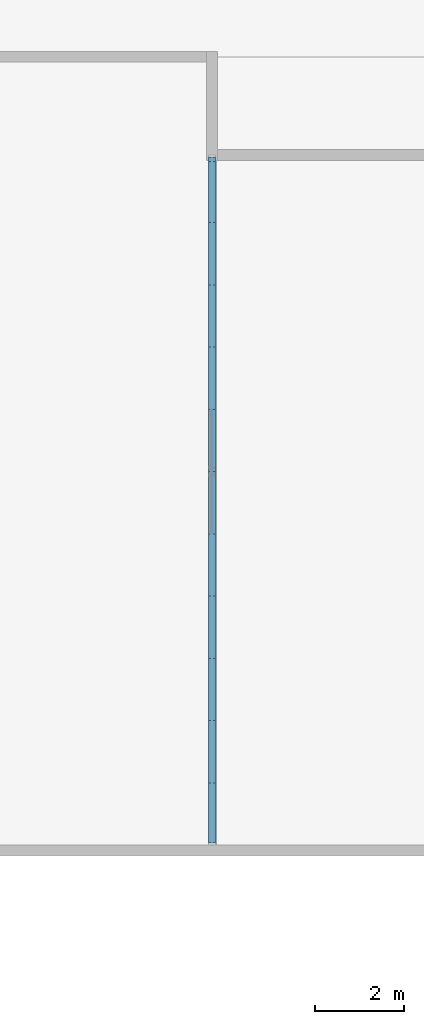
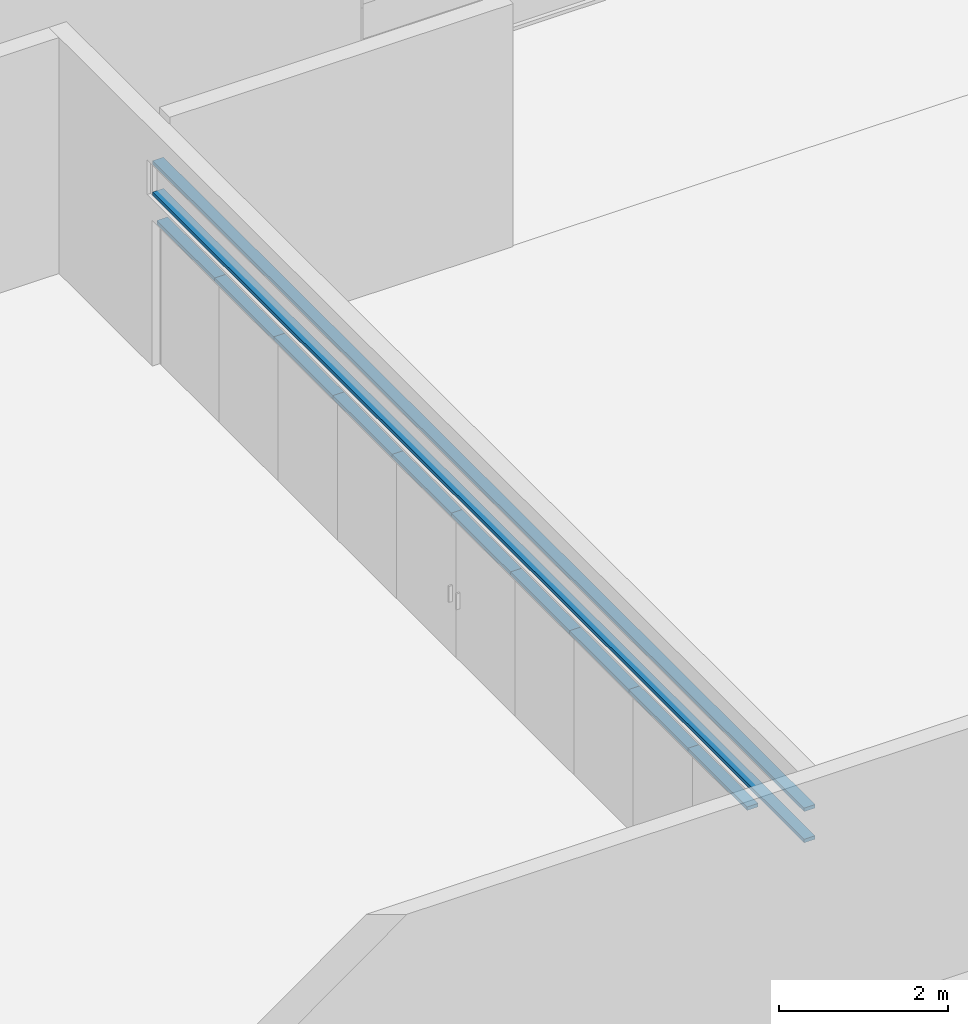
# One storey, part 1 of 24: 12 members, 2 elements without a shape of their own.
"""IFC2X3 building model written with IfcOpenShell, lengths in millimetres."""

from ifc_helpers import new_model, entity, si_unit, converted_unit, derived_unit, direction, frame, origin, origin_2d_with_axis, place, context, subcontext, project, spatial, rectangle, extrude, source, transform, mapped, material, type_object, type_shapes, element, aggregate, save


model = new_model("IFC2X3")

# Units and contexts
model_context = context("Model", 3, precision=0.01, world=origin(), true_north=direction((6.12303176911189e-17, 1.0)))
body_context = subcontext(model_context, "Body", "Model", "MODEL_VIEW")
ifc_project = project(units=[si_unit("LENGTHUNIT", "METRE", prefix="MILLI"), si_unit("AREAUNIT", "SQUARE_METRE"), si_unit("VOLUMEUNIT", "CUBIC_METRE"), converted_unit("PLANEANGLEUNIT", "DEGREE", entity("IfcRatioMeasure", 0.0174532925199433), si_unit("PLANEANGLEUNIT", "RADIAN"), dimensions=[0, 0, 0, 0, 0, 0, 0]), si_unit("MASSUNIT", "GRAM", prefix="KILO"), derived_unit("MASSDENSITYUNIT", [(si_unit("MASSUNIT", "GRAM", prefix="KILO"), 1), (si_unit("LENGTHUNIT", "METRE"), -3)]), si_unit("TIMEUNIT", "SECOND"), si_unit("FREQUENCYUNIT", "HERTZ"), si_unit("THERMODYNAMICTEMPERATUREUNIT", "DEGREE_CELSIUS"), derived_unit("THERMALTRANSMITTANCEUNIT", [(si_unit("MASSUNIT", "GRAM", prefix="KILO"), 1), (si_unit("THERMODYNAMICTEMPERATUREUNIT", "KELVIN"), -1), (si_unit("TIMEUNIT", "SECOND"), -3)]), derived_unit("VOLUMETRICFLOWRATEUNIT", [(si_unit("LENGTHUNIT", "METRE"), 3), (si_unit("TIMEUNIT", "SECOND"), -1)]), si_unit("ELECTRICCURRENTUNIT", "AMPERE"), si_unit("ELECTRICVOLTAGEUNIT", "VOLT"), si_unit("POWERUNIT", "WATT"), si_unit("FORCEUNIT", "NEWTON", prefix="KILO"), si_unit("ILLUMINANCEUNIT", "LUX"), si_unit("LUMINOUSFLUXUNIT", "LUMEN"), si_unit("LUMINOUSINTENSITYUNIT", "CANDELA"), derived_unit("USERDEFINED", [(si_unit("MASSUNIT", "GRAM", prefix="KILO"), -1), (si_unit("LENGTHUNIT", "METRE"), -2), (si_unit("TIMEUNIT", "SECOND"), 3), (si_unit("LUMINOUSFLUXUNIT", "LUMEN"), 1)]), derived_unit("LINEARVELOCITYUNIT", [(si_unit("LENGTHUNIT", "METRE"), 1), (si_unit("TIMEUNIT", "SECOND"), -1)]), si_unit("PRESSUREUNIT", "PASCAL"), derived_unit("USERDEFINED", [(si_unit("LENGTHUNIT", "METRE"), -2), (si_unit("MASSUNIT", "GRAM", prefix="KILO"), 1), (si_unit("TIMEUNIT", "SECOND"), -2)])], contexts=[model_context])

# Site, building, storey
site_placement = place(None, origin())
site = spatial("IfcSite", under=ifc_project, at=site_placement, Name="表面", CompositionType="ELEMENT")
building_placement = place(site_placement, origin())
building = spatial("IfcBuilding", under=site, at=building_placement, CompositionType="ELEMENT")
storey_placement = place(building_placement, frame((0.0, 0.0, -3500.0)))
storey = spatial("IfcBuildingStorey", under=building, at=storey_placement, Name="-1F", CompositionType="ELEMENT", Elevation=-3500.0)

# Curtain wall, members
curtain_wall_type_1 = type_object("IfcCurtainWallType", Name="幕墙:店面", PredefinedType="NOTDEFINED")
curtain_wall_1_placement = place(storey_placement, frame((0.0, 0.0, 3500.0)))
curtain_wall_1 = element("IfcCurtainWall", 1, at=curtain_wall_1_placement, inside=storey, type_object=curtain_wall_type_1, Name="幕墙:店面", ObjectType="幕墙:店面")
ifc_material = material(Name="金属 - 铝")
member_type_1 = type_object("IfcMemberType", Name="50 x 150mm", PredefinedType="MEMBER")
shared_shape_1 = source(origin(), body_context, "Body", "SweptSolid", [
    extrude(rectangle(XDim=150.0, YDim=50.0, at=origin_2d_with_axis()), frame((-25.0, 0.0, -1366.36363636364), z_axis=(0.0, 0.0, 1.0), x_axis=(0.0, -1.0, 0.0)), (0.0, 0.0, 1.0), 1366.36363636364),
])
type_shapes(member_type_1, [shared_shape_1])
member_1_placement = place(storey_placement, frame((-3630.24991264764, -15824.2095493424, 2100.0), z_axis=(0.0, -1.0, 0.0), x_axis=(0.0, 0.0, 1.0)))
member_1 = element("IfcMember", 2, at=member_1_placement, type_object=member_type_1, material=ifc_material, Name="矩形竖梃:50 x 150mm", ObjectType="50 x 150mm", context=body_context, shape_type="MappedRepresentation", body=[
    mapped(shared_shape_1, transform((0.0, 0.0, 0.0), scale=1.0)),
])
member_type_2 = type_object("IfcMemberType", Name="50 x 150mm", PredefinedType="MEMBER")
shared_shape_2 = source(origin(), body_context, "Body", "SweptSolid", [
    extrude(rectangle(XDim=150.0, YDim=50.0, at=origin_2d_with_axis()), frame((-25.0, 0.0, -1396.36363636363), z_axis=(0.0, 0.0, 1.0), x_axis=(0.0, -1.0, 0.0)), (0.0, 0.0, 1.0), 1396.36363636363),
])
type_shapes(member_type_2, [shared_shape_2])
member_2_placement = place(storey_placement, frame((-3630.24991264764, -17220.5731857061, 2100.0), z_axis=(0.0, -1.0, 0.0), x_axis=(0.0, 0.0, 1.0)))
member_2 = element("IfcMember", 3, at=member_2_placement, type_object=member_type_2, material=ifc_material, Name="矩形竖梃:50 x 150mm", ObjectType="50 x 150mm", context=body_context, shape_type="MappedRepresentation", body=[
    mapped(shared_shape_2, transform((0.0, 0.0, 0.0), scale=1.0)),
])
member_3_placement = place(storey_placement, frame((-3630.24991264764, -18616.9368220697, 2100.0), z_axis=(0.0, -1.0, 0.0), x_axis=(0.0, 0.0, 1.0)))
member_3 = element("IfcMember", 4, at=member_3_placement, type_object=member_type_2, material=ifc_material, Name="矩形竖梃:50 x 150mm", ObjectType="50 x 150mm", context=body_context, shape_type="MappedRepresentation", body=[
    mapped(shared_shape_2, transform((0.0, 0.0, 0.0), scale=1.0)),
])
member_4_placement = place(storey_placement, frame((-3630.24991264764, -20013.3004584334, 2100.0), z_axis=(0.0, -1.0, 0.0), x_axis=(0.0, 0.0, 1.0)))
member_4 = element("IfcMember", 5, at=member_4_placement, type_object=member_type_2, material=ifc_material, Name="矩形竖梃:50 x 150mm", ObjectType="50 x 150mm", context=body_context, shape_type="MappedRepresentation", body=[
    mapped(shared_shape_2, transform((0.0, 0.0, 0.0), scale=1.0)),
])
member_5_placement = place(storey_placement, frame((-3630.24991264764, -21409.664094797, 2100.0), z_axis=(0.0, -1.0, 0.0), x_axis=(0.0, 0.0, 1.0)))
member_5 = element("IfcMember", 6, at=member_5_placement, type_object=member_type_2, material=ifc_material, Name="矩形竖梃:50 x 150mm", ObjectType="50 x 150mm", context=body_context, shape_type="MappedRepresentation", body=[
    mapped(shared_shape_2, transform((0.0, 0.0, 0.0), scale=1.0)),
])
member_6_placement = place(storey_placement, frame((-3630.24991264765, -22806.0277311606, 2100.0), z_axis=(0.0, -1.0, 0.0), x_axis=(0.0, 0.0, 1.0)))
member_6 = element("IfcMember", 7, at=member_6_placement, type_object=member_type_2, material=ifc_material, Name="矩形竖梃:50 x 150mm", ObjectType="50 x 150mm", context=body_context, shape_type="MappedRepresentation", body=[
    mapped(shared_shape_2, transform((0.0, 0.0, 0.0), scale=1.0)),
])
member_7_placement = place(storey_placement, frame((-3630.24991264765, -24202.3913675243, 2100.0), z_axis=(0.0, -1.0, 0.0), x_axis=(0.0, 0.0, 1.0)))
member_7 = element("IfcMember", 8, at=member_7_placement, type_object=member_type_2, material=ifc_material, Name="矩形竖梃:50 x 150mm", ObjectType="50 x 150mm", context=body_context, shape_type="MappedRepresentation", body=[
    mapped(shared_shape_2, transform((0.0, 0.0, 0.0), scale=1.0)),
])
member_8_placement = place(storey_placement, frame((-3630.24991264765, -25598.7550038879, 2100.0), z_axis=(0.0, -1.0, 0.0), x_axis=(0.0, 0.0, 1.0)))
member_8 = element("IfcMember", 9, at=member_8_placement, type_object=member_type_2, material=ifc_material, Name="矩形竖梃:50 x 150mm", ObjectType="50 x 150mm", context=body_context, shape_type="MappedRepresentation", body=[
    mapped(shared_shape_2, transform((0.0, 0.0, 0.0), scale=1.0)),
])
member_9_placement = place(storey_placement, frame((-3630.24991264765, -26995.1186402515, 2100.0), z_axis=(0.0, -1.0, 0.0), x_axis=(0.0, 0.0, 1.0)))
member_9 = element("IfcMember", 10, at=member_9_placement, type_object=member_type_2, material=ifc_material, Name="矩形竖梃:50 x 150mm", ObjectType="50 x 150mm", context=body_context, shape_type="MappedRepresentation", body=[
    mapped(shared_shape_2, transform((0.0, 0.0, 0.0), scale=1.0)),
])
member_type_3 = type_object("IfcMemberType", Name="50 x 150mm", PredefinedType="MEMBER")
shared_shape_3 = source(origin(), body_context, "Body", "SweptSolid", [
    extrude(rectangle(XDim=150.0, YDim=50.0, at=origin_2d_with_axis()), frame((-25.0, 0.0, -1396.36363636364), z_axis=(0.0, 0.0, 1.0), x_axis=(0.0, -1.0, 0.0)), (0.0, 0.0, 1.0), 1396.36363636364),
])
type_shapes(member_type_3, [shared_shape_3])
member_10_placement = place(storey_placement, frame((-3630.24991264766, -28391.4822766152, 2100.0), z_axis=(0.0, -1.0, 0.0), x_axis=(0.0, 0.0, 1.0)))
member_10 = element("IfcMember", 11, at=member_10_placement, type_object=member_type_3, material=ifc_material, Name="矩形竖梃:50 x 150mm", ObjectType="50 x 150mm", context=body_context, shape_type="MappedRepresentation", body=[
    mapped(shared_shape_3, transform((0.0, 0.0, 0.0), scale=1.0)),
])
aggregate(curtain_wall_1, [member_1, member_2, member_3, member_4, member_5, member_6, member_7, member_8, member_9, member_10])

curtain_wall_type_2 = type_object("IfcCurtainWallType", Name="幕墙:幕墙 1", PredefinedType="NOTDEFINED")
curtain_wall_2_placement = place(storey_placement, frame((0.0, 0.0, 3500.0)))
curtain_wall_2 = element("IfcCurtainWall", 12, at=curtain_wall_2_placement, inside=storey, type_object=curtain_wall_type_2, Name="幕墙:幕墙 1", ObjectType="幕墙:幕墙 1")
member_type_4 = type_object("IfcMemberType", Name="50 x 150mm", PredefinedType="MEMBER")
shared_shape_4 = source(origin(), body_context, "Body", "SweptSolid", [
    extrude(rectangle(XDim=150.0, YDim=50.0, at=origin_2d_with_axis()), frame((-25.0, 0.0, -15380.0), z_axis=(0.0, 0.0, 1.0), x_axis=(0.0, -1.0, 0.0)), (0.0, 0.0, 1.0), 15380.0),
])
type_shapes(member_type_4, [shared_shape_4])
member_11_placement = place(storey_placement, frame((-3630.24991264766, -29737.8459129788, 2900.0), z_axis=(0.0, -1.0, 0.0), x_axis=(0.0, 0.0, 1.0)))
member_11 = element("IfcMember", 13, at=member_11_placement, type_object=member_type_4, material=ifc_material, Name="矩形竖梃:50 x 150mm", ObjectType="50 x 150mm", context=body_context, shape_type="MappedRepresentation", body=[
    mapped(shared_shape_4, transform((0.0, 0.0, 0.0), scale=1.0)),
])
member_type_5 = type_object("IfcMemberType", Name="50 x 150mm", PredefinedType="MEMBER")
shared_shape_5 = source(origin(), body_context, "Body", "SweptSolid", [
    extrude(rectangle(XDim=150.0, YDim=50.0, at=origin_2d_with_axis()), frame((-25.0, 0.0, -15380.0), z_axis=(0.0, 0.0, 1.0), x_axis=(0.0, -1.0, 0.0)), (0.0, 0.0, 1.0), 15380.0),
])
type_shapes(member_type_5, [shared_shape_5])
member_12_placement = place(storey_placement, frame((-3630.24991264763, -14357.8459129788, 2400.0), z_axis=(0.0, 1.0, 0.0), x_axis=(0.0, 0.0, -1.0)))
member_12 = element("IfcMember", 14, at=member_12_placement, type_object=member_type_5, material=ifc_material, Name="矩形竖梃:50 x 150mm", ObjectType="50 x 150mm", context=body_context, shape_type="MappedRepresentation", body=[
    mapped(shared_shape_5, transform((0.0, 0.0, 0.0), scale=1.0)),
])
aggregate(curtain_wall_2, [member_11, member_12])

save(model, "model.ifc")
